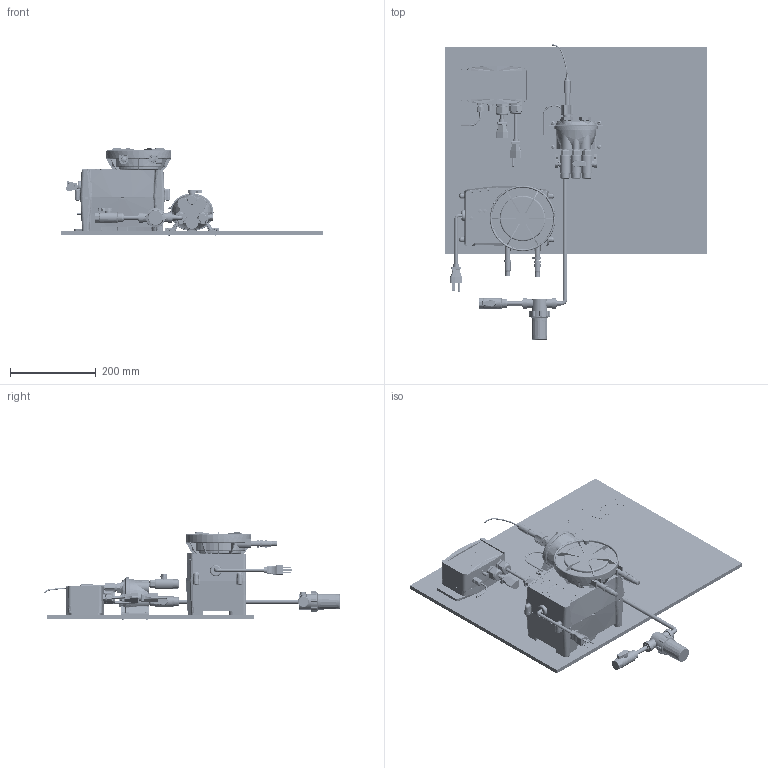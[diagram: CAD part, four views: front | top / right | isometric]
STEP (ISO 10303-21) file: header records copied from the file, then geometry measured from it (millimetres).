
FILE_DESCRIPTION (( 'STEP AP214' ), '1' );
FILE_NAME ('Board Style J 1-14-2020.STEP', '2020-01-15T17:35:40', ( '' ), ( '' ), 'SwSTEP 2.0', 'SolidWorks 2019', '' );
FILE_SCHEMA (( 'AUTOMOTIVE_DESIGN' ));
Length unit declared in the file: inch
Products named in the file (1): Board Style J 1-14-2020
Bounding box: 609.6 x 686.84 x 206.09 mm (x, y, z)
Volume: 5637529.5 mm3; surface area: 1303799.4 mm2
Topology: 9 solids, 9 shells, 7102 faces, 18619 edges, 11730 vertices
Faces by surface type: plane 3055, cylinder 1669, bspline 1427, torus 497, cone 368, sphere 86
Entity records: 382834 total; most frequent: CARTESIAN_POINT 176571, ORIENTED_EDGE 36998, DIRECTION 29800, EDGE_CURVE 18499, VERTEX_POINT 11729, AXIS2_PLACEMENT_3D 10343, VECTOR 9114, LINE 9114
